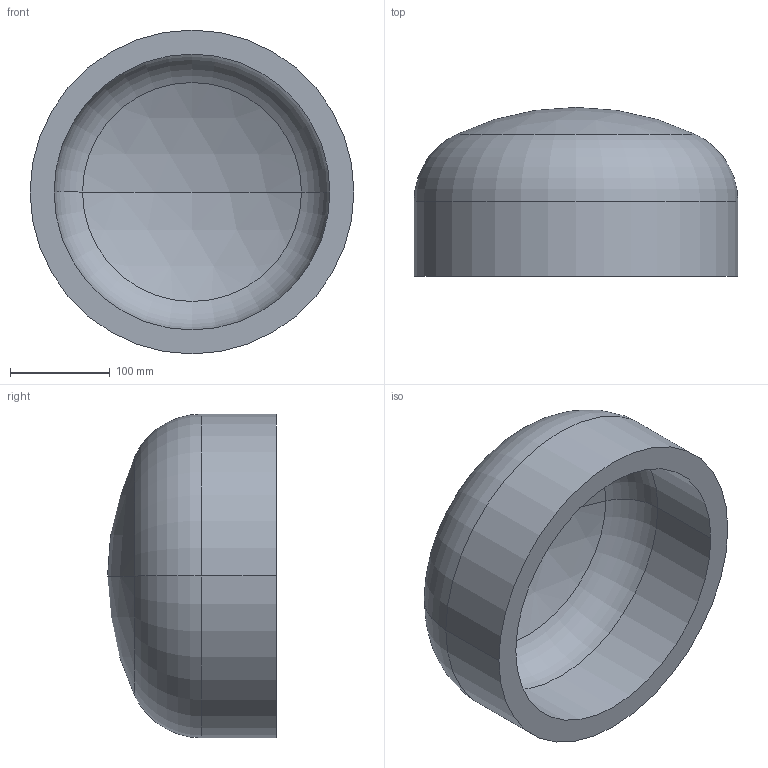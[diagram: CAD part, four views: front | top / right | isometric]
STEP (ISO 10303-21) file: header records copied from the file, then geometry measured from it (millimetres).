
FILE_DESCRIPTION (( 'STEP AP203' ), '1' );
FILE_NAME ('DIN 28013 Korbbogenform_-_Boden DIN 28013 - 323,9 x 75 - I - s=24.step', '2016-07-01T07:44:55', ( '' ), ( '' ), 'SwSTEP 2.0', 'SolidWorks 2013', '' );
FILE_SCHEMA (( 'CONFIG_CONTROL_DESIGN' ));
Length unit declared in the file: millimetre
Products named in the file (1): DIN 28013 Korbbogenform_-_Boden DIN 28013 - 323,9 x 75 - I - s=24
Bounding box: 323.9 x 168.93 x 323.9 mm (x, y, z)
Volume: 4193793.3 mm3; surface area: 373301 mm2
Topology: 1 solids, 1 shells, 13 faces, 24 edges, 14 vertices
Faces by surface type: torus 4, cylinder 4, sphere 4, plane 1
Entity records: 407 total; most frequent: DIRECTION 72, CARTESIAN_POINT 52, ORIENTED_EDGE 48, AXIS2_PLACEMENT_3D 34, EDGE_CURVE 24, CIRCLE 20, EDGE_LOOP 14, VERTEX_POINT 14
